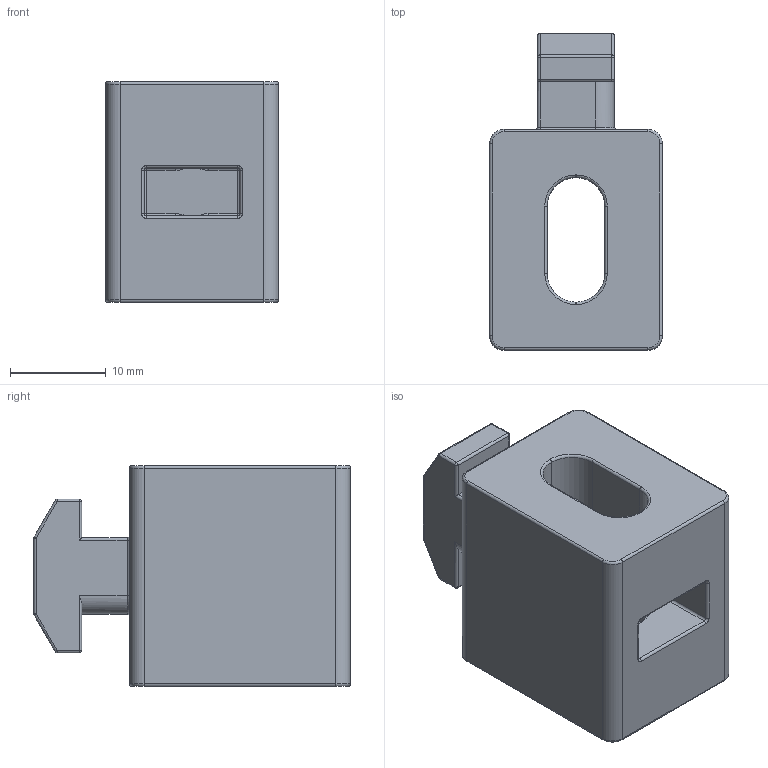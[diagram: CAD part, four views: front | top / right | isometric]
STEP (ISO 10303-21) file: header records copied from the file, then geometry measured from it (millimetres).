
FILE_DESCRIPTION (( 'STEP AP214' ), '1' );
FILE_NAME ('3008.STEP', '2015-04-16T09:34:40', ( '' ), ( '' ), 'SwSTEP 2.0', 'SolidWorks 2014', '' );
FILE_SCHEMA (( 'AUTOMOTIVE_DESIGN' ));
Length unit declared in the file: millimetre
Products named in the file (1): 3008
Bounding box: 18 x 33 x 23 mm (x, y, z)
Volume: 8185.4 mm3; surface area: 3920.8 mm2
Topology: 1 solids, 1 shells, 156 faces, 360 edges, 190 vertices
Faces by surface type: cylinder 76, torus 32, plane 28, sphere 16, bspline 4
Entity records: 4378 total; most frequent: CARTESIAN_POINT 847, DIRECTION 816, ORIENTED_EDGE 688, EDGE_CURVE 344, AXIS2_PLACEMENT_3D 331, VERTEX_POINT 190, CIRCLE 178, EDGE_LOOP 160
